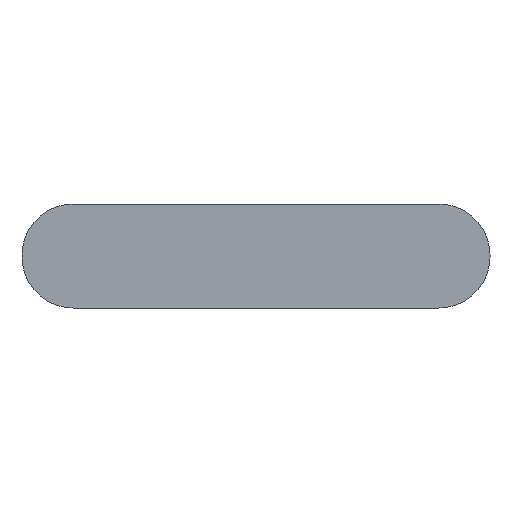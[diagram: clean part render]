
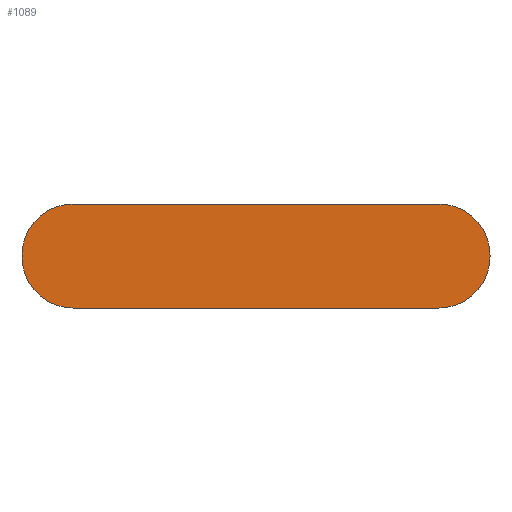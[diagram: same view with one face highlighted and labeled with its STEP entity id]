
A CAD part, left-side view. The second image highlights one B-rep face of the part: STEP entity #1089.
In plain terms, the highlighted planar face has unit normal (-1, 0, 0).
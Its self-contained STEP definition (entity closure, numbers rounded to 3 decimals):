
#49=FACE_OUTER_BOUND('',#113,.T.);
#113=EDGE_LOOP('',(#727,#728,#729,#730,#731,#732,#733,#734));
#185=LINE('',#1633,#295);
#186=LINE('',#1637,#296);
#187=LINE('',#1641,#297);
#188=LINE('',#1644,#298);
#295=VECTOR('',#1289,10.);
#296=VECTOR('',#1292,10.);
#297=VECTOR('',#1295,10.);
#298=VECTOR('',#1298,10.);
#405=CIRCLE('',#1168,5.9);
#406=CIRCLE('',#1169,5.9);
#407=CIRCLE('',#1170,5.9);
#408=CIRCLE('',#1171,5.9);
#457=VERTEX_POINT('',#1629);
#458=VERTEX_POINT('',#1630);
#459=VERTEX_POINT('',#1632);
#460=VERTEX_POINT('',#1634);
#461=VERTEX_POINT('',#1636);
#462=VERTEX_POINT('',#1638);
#463=VERTEX_POINT('',#1640);
#464=VERTEX_POINT('',#1642);
#565=EDGE_CURVE('',#457,#458,#405,.T.);
#566=EDGE_CURVE('',#458,#459,#185,.T.);
#567=EDGE_CURVE('',#459,#460,#406,.T.);
#568=EDGE_CURVE('',#461,#460,#186,.T.);
#569=EDGE_CURVE('',#461,#462,#407,.T.);
#570=EDGE_CURVE('',#463,#462,#187,.T.);
#571=EDGE_CURVE('',#463,#464,#408,.T.);
#572=EDGE_CURVE('',#457,#464,#188,.T.);
#727=ORIENTED_EDGE('',*,*,#565,.T.);
#728=ORIENTED_EDGE('',*,*,#566,.T.);
#729=ORIENTED_EDGE('',*,*,#567,.T.);
#730=ORIENTED_EDGE('',*,*,#568,.F.);
#731=ORIENTED_EDGE('',*,*,#569,.T.);
#732=ORIENTED_EDGE('',*,*,#570,.F.);
#733=ORIENTED_EDGE('',*,*,#571,.T.);
#734=ORIENTED_EDGE('',*,*,#572,.F.);
#1051=PLANE('',#1167);
#1089=ADVANCED_FACE('',(#49),#1051,.F.);
#1167=AXIS2_PLACEMENT_3D('',#1628,#1285,#1286);
#1168=AXIS2_PLACEMENT_3D('',#1631,#1287,#1288);
#1169=AXIS2_PLACEMENT_3D('',#1635,#1290,#1291);
#1170=AXIS2_PLACEMENT_3D('',#1639,#1293,#1294);
#1171=AXIS2_PLACEMENT_3D('',#1643,#1296,#1297);
#1285=DIRECTION('center_axis',(1.,0.,0.));
#1286=DIRECTION('ref_axis',(0.,0.,-1.));
#1287=DIRECTION('center_axis',(-1.,0.,0.));
#1288=DIRECTION('ref_axis',(0.,0.,-1.));
#1289=DIRECTION('',(0.,0.,-1.));
#1290=DIRECTION('center_axis',(-1.,0.,0.));
#1291=DIRECTION('ref_axis',(0.,0.,-1.));
#1292=DIRECTION('',(0.,1.,0.));
#1293=DIRECTION('center_axis',(-1.,0.,0.));
#1294=DIRECTION('ref_axis',(0.,0.,-1.));
#1295=DIRECTION('',(0.,0.,-1.));
#1296=DIRECTION('center_axis',(-1.,0.,0.));
#1297=DIRECTION('ref_axis',(0.,0.,-1.));
#1298=DIRECTION('',(0.,-1.,0.));
#1628=CARTESIAN_POINT('Origin',(-40.5,12.,-12.));
#1629=CARTESIAN_POINT('',(-40.5,33.1,-6.));
#1630=CARTESIAN_POINT('',(-40.5,39.,-11.9));
#1631=CARTESIAN_POINT('Origin',(-40.5,33.1,-11.9));
#1632=CARTESIAN_POINT('',(-40.5,39.,-12.1));
#1633=CARTESIAN_POINT('',(-40.5,39.,-12.));
#1634=CARTESIAN_POINT('',(-40.5,33.1,-18.));
#1635=CARTESIAN_POINT('Origin',(-40.5,33.1,-12.1));
#1636=CARTESIAN_POINT('',(-40.5,-9.1,-18.));
#1637=CARTESIAN_POINT('',(-40.5,12.,-18.));
#1638=CARTESIAN_POINT('',(-40.5,-15.,-12.1));
#1639=CARTESIAN_POINT('Origin',(-40.5,-9.1,-12.1));
#1640=CARTESIAN_POINT('',(-40.5,-15.,-11.9));
#1641=CARTESIAN_POINT('',(-40.5,-15.,-12.));
#1642=CARTESIAN_POINT('',(-40.5,-9.1,-6.));
#1643=CARTESIAN_POINT('Origin',(-40.5,-9.1,-11.9));
#1644=CARTESIAN_POINT('',(-40.5,12.,-6.));
